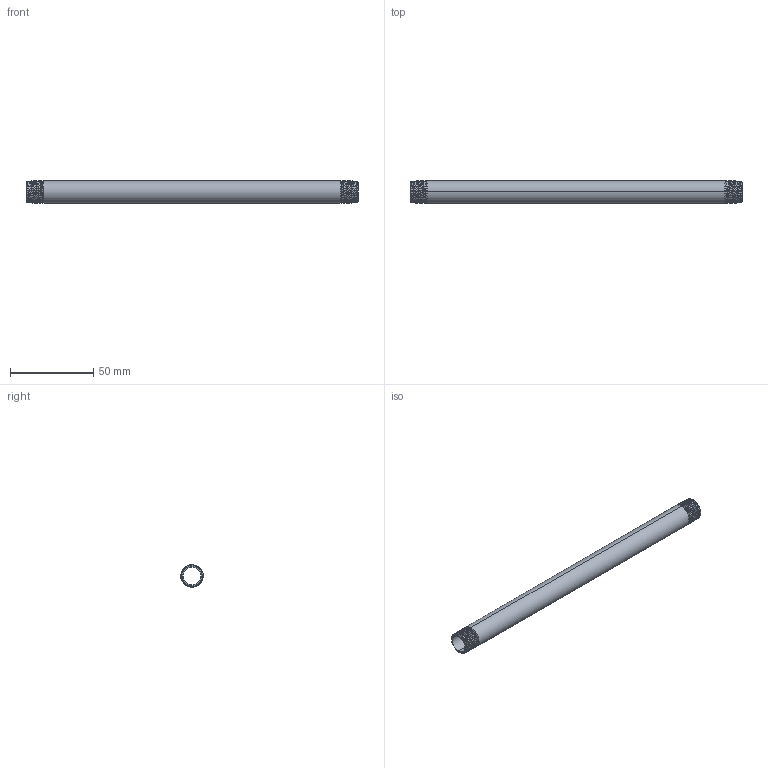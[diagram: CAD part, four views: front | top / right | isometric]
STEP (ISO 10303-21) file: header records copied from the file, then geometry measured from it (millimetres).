
FILE_DESCRIPTION (( 'STEP AP203' ), '1' );
FILE_NAME ('3D_R210_1-4x200_17185610.STEP', '2024-08-16T10:53:36', ( '' ), ( '' ), 'SwSTEP 2.0', 'SolidWorks 2024', '' );
FILE_SCHEMA (( 'CONFIG_CONTROL_DESIGN' ));
Length unit declared in the file: millimetre
Products named in the file (1): 3D_R210_1-4x200_17185610
Bounding box: 200 x 13.5 x 13.5 mm (x, y, z)
Volume: 11035.3 mm3; surface area: 15542.2 mm2
Topology: 1 solids, 1 shells, 60 faces, 166 edges, 108 vertices
Faces by surface type: cone 46, bspline 6, cylinder 4, plane 4
Entity records: 8741 total; most frequent: CARTESIAN_POINT 7339, ORIENTED_EDGE 332, DIRECTION 194, EDGE_CURVE 166, VERTEX_POINT 108, B_SPLINE_CURVE_WITH_KNOTS 88, AXIS2_PLACEMENT_3D 69, EDGE_LOOP 62
